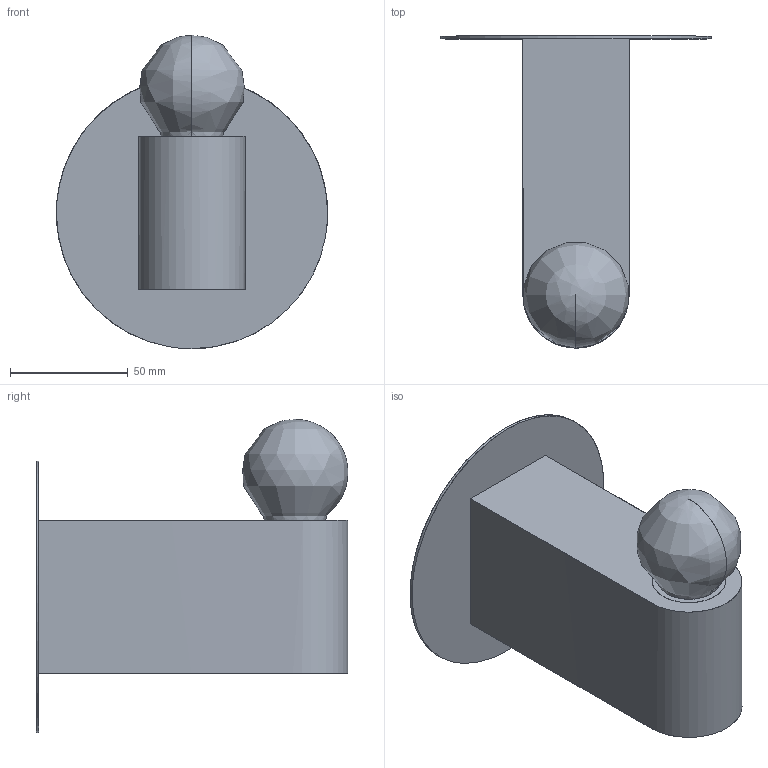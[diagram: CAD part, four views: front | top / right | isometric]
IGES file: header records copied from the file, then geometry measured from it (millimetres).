
Start section: Use this template file for building objects the size of a truck or smaller, and for objects which must be built to manufacturing tolerances. Units: Millimeters Absolute tolerance: .001 mm
Global section: file name: /Volumes/Company/WIP/Marlen/WFH/Website/SALES 3D/BAC/WALL/D2/MA_BAC D2_120V_2017.igs; preprocessor: Trout Lake IGES 012 Dec  4 2019; date: 201202.115408; units: millimetre
Bounding box: 115 x 132.23 x 132.84 mm (x, y, z)
Surface area: 53775.7 mm2 (no closed solid volume)
Topology: 0 solids, 0 shells, 8 faces, 46 edges, 44 vertices
Faces by surface type: bspline 8
